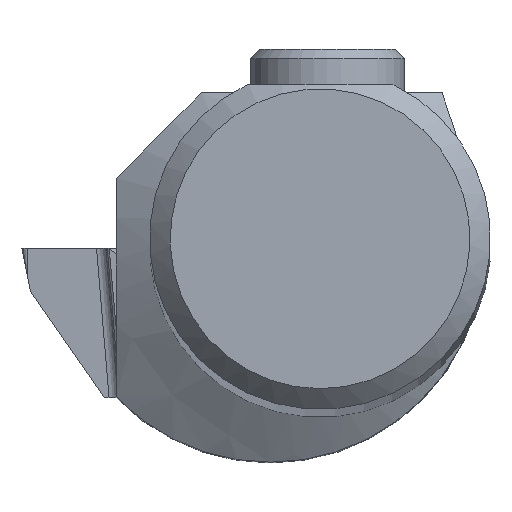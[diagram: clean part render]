
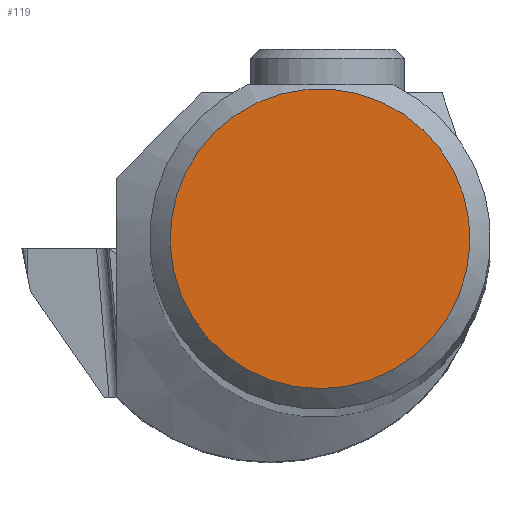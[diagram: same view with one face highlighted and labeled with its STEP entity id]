
A CAD part, top view. The second image highlights one B-rep face of the part: STEP entity #119.
In plain terms, the highlighted planar face has unit normal (0, 0, 1).
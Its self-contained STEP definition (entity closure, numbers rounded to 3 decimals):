
#119=ADVANCED_FACE('',(#273),#207,.T.);
#207=PLANE('',#1824);
#273=FACE_OUTER_BOUND('',#356,.T.);
#356=EDGE_LOOP('',(#514));
#514=ORIENTED_EDGE('',*,*,#1133,.T.);
#967=VERTEX_POINT('',#2554);
#1133=EDGE_CURVE('',#967,#967,#1372,.T.);
#1372=CIRCLE('',#1823,5.581);
#1823=AXIS2_PLACEMENT_3D('',#2553,#2019,#2020);
#1824=AXIS2_PLACEMENT_3D('',#2555,#2021,#2022);
#2019=DIRECTION('',(0.,0.,1.));
#2020=DIRECTION('',(0.,-1.,0.));
#2021=DIRECTION('',(0.,0.,1.));
#2022=DIRECTION('',(0.,-1.,0.));
#2553=CARTESIAN_POINT('',(0.,0.,0.));
#2554=CARTESIAN_POINT('',(0.,-5.581,0.));
#2555=CARTESIAN_POINT('',(0.,0.,0.));
